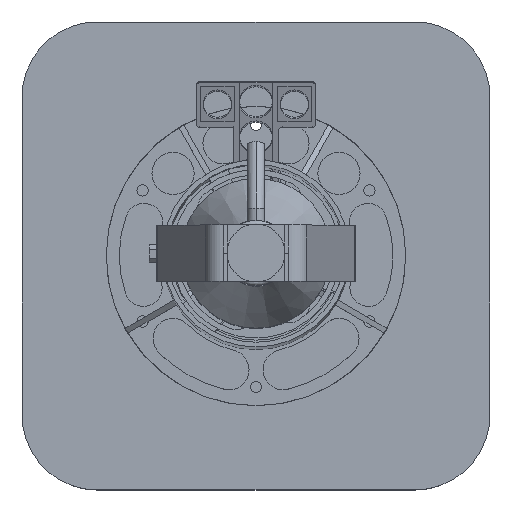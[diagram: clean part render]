
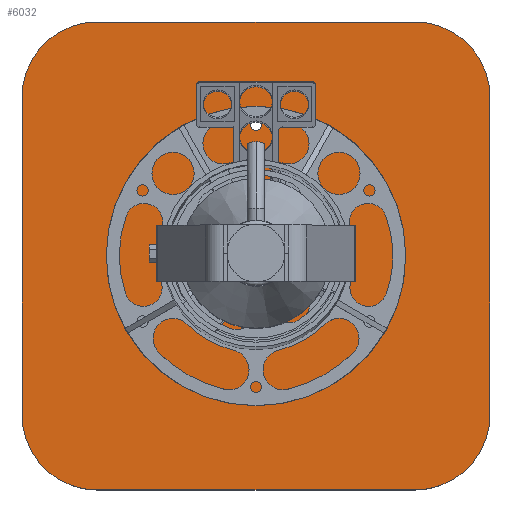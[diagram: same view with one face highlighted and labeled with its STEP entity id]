
A CAD part, top view. The second image highlights one B-rep face of the part: STEP entity #6032.
In plain terms, the highlighted planar face has unit normal (0, 0, 1).
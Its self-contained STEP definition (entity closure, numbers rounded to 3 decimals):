
#63 = VERTEX_POINT ( 'NONE', #2696 ) ;
#376 = CARTESIAN_POINT ( 'NONE',  ( 210., 250., 18. ) ) ;
#462 = EDGE_CURVE ( 'NONE', #10040, #6491, #798, .T. ) ;
#520 = VECTOR ( 'NONE', #4972, 1000. ) ;
#545 = DIRECTION ( 'NONE',  ( 1., 0., 0. ) ) ;
#718 = VERTEX_POINT ( 'NONE', #6168 ) ;
#793 = CARTESIAN_POINT ( 'NONE',  ( 210., 210., 18. ) ) ;
#798 = CIRCLE ( 'NONE', #12187, 3. ) ;
#915 = CARTESIAN_POINT ( 'NONE',  ( 61.378, 90., 18. ) ) ;
#1009 = ORIENTED_EDGE ( 'NONE', *, *, #11031, .T. ) ;
#1010 = CARTESIAN_POINT ( 'NONE',  ( 125., 195., 18. ) ) ;
#1024 = VERTEX_POINT ( 'NONE', #8453 ) ;
#1259 = CARTESIAN_POINT ( 'NONE',  ( 0., 0., 18. ) ) ;
#1385 = CARTESIAN_POINT ( 'NONE',  ( 188.622, 90., 18. ) ) ;
#1388 = VECTOR ( 'NONE', #6588, 1000. ) ;
#1596 = DIRECTION ( 'NONE',  ( -1., 0., 0. ) ) ;
#1658 = EDGE_LOOP ( 'NONE', ( #10066, #7546 ) ) ;
#1671 = ORIENTED_EDGE ( 'NONE', *, *, #6111, .T. ) ;
#1776 = DIRECTION ( 'NONE',  ( 0., 0., 1. ) ) ;
#1795 = DIRECTION ( 'NONE',  ( -1., 0., 0. ) ) ;
#1902 = AXIS2_PLACEMENT_3D ( 'NONE', #4229, #11089, #5221 ) ;
#1998 = DIRECTION ( 'NONE',  ( 1., 0., 0. ) ) ;
#2188 = EDGE_CURVE ( 'NONE', #2623, #1024, #8610, .T. ) ;
#2270 = DIRECTION ( 'NONE',  ( 0., 1., 0. ) ) ;
#2593 = CARTESIAN_POINT ( 'NONE',  ( 0., 210., 18. ) ) ;
#2623 = VERTEX_POINT ( 'NONE', #376 ) ;
#2696 = CARTESIAN_POINT ( 'NONE',  ( 250., 210., 18. ) ) ;
#2847 = CARTESIAN_POINT ( 'NONE',  ( 125., 195., 18. ) ) ;
#2987 = EDGE_CURVE ( 'NONE', #9528, #9118, #10728, .T. ) ;
#3086 = LINE ( 'NONE', #8892, #520 ) ;
#3088 = VECTOR ( 'NONE', #1596, 1000. ) ;
#3194 = DIRECTION ( 'NONE',  ( 0., 0., -1. ) ) ;
#3295 = ORIENTED_EDGE ( 'NONE', *, *, #4192, .F. ) ;
#3812 = CIRCLE ( 'NONE', #7738, 3. ) ;
#3822 = DIRECTION ( 'NONE',  ( 1., 0., 0. ) ) ;
#3941 = LINE ( 'NONE', #5559, #1388 ) ;
#4001 = FACE_OUTER_BOUND ( 'NONE', #4117, .T. ) ;
#4040 = DIRECTION ( 'NONE',  ( 0., 0., 1. ) ) ;
#4117 = EDGE_LOOP ( 'NONE', ( #4913, #5684, #8378, #1009, #10794, #9732, #1671, #8854 ) ) ;
#4177 = CARTESIAN_POINT ( 'NONE',  ( 250., 40., 18. ) ) ;
#4192 = EDGE_CURVE ( 'NONE', #6491, #10040, #8757, .T. ) ;
#4229 = CARTESIAN_POINT ( 'NONE',  ( 64.378, 90., 18. ) ) ;
#4240 = ORIENTED_EDGE ( 'NONE', *, *, #462, .F. ) ;
#4507 = CARTESIAN_POINT ( 'NONE',  ( 122., 195., 18. ) ) ;
#4913 = ORIENTED_EDGE ( 'NONE', *, *, #9805, .T. ) ;
#4972 = DIRECTION ( 'NONE',  ( 0., -1., 0. ) ) ;
#4973 = EDGE_CURVE ( 'NONE', #7828, #5420, #7346, .T. ) ;
#5090 = EDGE_CURVE ( 'NONE', #8100, #8085, #3812, .T. ) ;
#5092 = DIRECTION ( 'NONE',  ( 0., 0., 1. ) ) ;
#5221 = DIRECTION ( 'NONE',  ( 1., 0., 0. ) ) ;
#5320 = CARTESIAN_POINT ( 'NONE',  ( 40., 210., 18. ) ) ;
#5397 = DIRECTION ( 'NONE',  ( 0., 0., 1. ) ) ;
#5420 = VERTEX_POINT ( 'NONE', #7890 ) ;
#5508 = AXIS2_PLACEMENT_3D ( 'NONE', #7573, #1776, #8578 ) ;
#5549 = EDGE_LOOP ( 'NONE', ( #4240, #3295 ) ) ;
#5559 = CARTESIAN_POINT ( 'NONE',  ( 0., 0., 18. ) ) ;
#5684 = ORIENTED_EDGE ( 'NONE', *, *, #2987, .T. ) ;
#5873 = LINE ( 'NONE', #9113, #8812 ) ;
#6032 = ADVANCED_FACE ( 'NONE', ( #12152, #6602, #9236, #4001 ), #11984, .F. ) ;
#6111 = EDGE_CURVE ( 'NONE', #12100, #11437, #3086, .T. ) ;
#6116 = ORIENTED_EDGE ( 'NONE', *, *, #10639, .F. ) ;
#6168 = CARTESIAN_POINT ( 'NONE',  ( 40., 0., 18. ) ) ;
#6304 = DIRECTION ( 'NONE',  ( -1., 0., 0. ) ) ;
#6352 = EDGE_CURVE ( 'NONE', #1024, #12100, #10425, .T. ) ;
#6361 = DIRECTION ( 'NONE',  ( 0., 0., 1. ) ) ;
#6491 = VERTEX_POINT ( 'NONE', #4507 ) ;
#6581 = AXIS2_PLACEMENT_3D ( 'NONE', #10961, #5092, #11958 ) ;
#6588 = DIRECTION ( 'NONE',  ( 1., 0., 0. ) ) ;
#6602 = FACE_BOUND ( 'NONE', #7412, .T. ) ;
#7346 = CIRCLE ( 'NONE', #1902, 3. ) ;
#7412 = EDGE_LOOP ( 'NONE', ( #10464, #6116 ) ) ;
#7444 = CIRCLE ( 'NONE', #6581, 3. ) ;
#7546 = ORIENTED_EDGE ( 'NONE', *, *, #4973, .F. ) ;
#7573 = CARTESIAN_POINT ( 'NONE',  ( 64.378, 90., 18. ) ) ;
#7603 = DIRECTION ( 'NONE',  ( 0., 0., 1. ) ) ;
#7738 = AXIS2_PLACEMENT_3D ( 'NONE', #12255, #6361, #545 ) ;
#7808 = DIRECTION ( 'NONE',  ( 0., 0., 1. ) ) ;
#7828 = VERTEX_POINT ( 'NONE', #915 ) ;
#7890 = CARTESIAN_POINT ( 'NONE',  ( 67.378, 90., 18. ) ) ;
#7944 = CARTESIAN_POINT ( 'NONE',  ( 128., 195., 18. ) ) ;
#7983 = AXIS2_PLACEMENT_3D ( 'NONE', #11260, #5397, #12264 ) ;
#8085 = VERTEX_POINT ( 'NONE', #10128 ) ;
#8100 = VERTEX_POINT ( 'NONE', #1385 ) ;
#8240 = CARTESIAN_POINT ( 'NONE',  ( 0., 40., 18. ) ) ;
#8378 = ORIENTED_EDGE ( 'NONE', *, *, #11880, .T. ) ;
#8453 = CARTESIAN_POINT ( 'NONE',  ( 40., 250., 18. ) ) ;
#8578 = DIRECTION ( 'NONE',  ( 1., 0., 0. ) ) ;
#8610 = LINE ( 'NONE', #10318, #3088 ) ;
#8648 = AXIS2_PLACEMENT_3D ( 'NONE', #9903, #4040, #10883 ) ;
#8757 = CIRCLE ( 'NONE', #10696, 3. ) ;
#8812 = VECTOR ( 'NONE', #2270, 1000. ) ;
#8854 = ORIENTED_EDGE ( 'NONE', *, *, #12022, .T. ) ;
#8892 = CARTESIAN_POINT ( 'NONE',  ( 0., 0., 18. ) ) ;
#9113 = CARTESIAN_POINT ( 'NONE',  ( 250., 0., 18. ) ) ;
#9118 = VERTEX_POINT ( 'NONE', #4177 ) ;
#9236 = FACE_BOUND ( 'NONE', #5549, .T. ) ;
#9528 = VERTEX_POINT ( 'NONE', #10029 ) ;
#9631 = AXIS2_PLACEMENT_3D ( 'NONE', #793, #7603, #1795 ) ;
#9697 = DIRECTION ( 'NONE',  ( 0., 0., 1. ) ) ;
#9732 = ORIENTED_EDGE ( 'NONE', *, *, #6352, .T. ) ;
#9805 = EDGE_CURVE ( 'NONE', #718, #9528, #3941, .T. ) ;
#9903 = CARTESIAN_POINT ( 'NONE',  ( 210., 40., 18. ) ) ;
#10029 = CARTESIAN_POINT ( 'NONE',  ( 210., 0., 18. ) ) ;
#10037 = DIRECTION ( 'NONE',  ( -1., 0., 0. ) ) ;
#10040 = VERTEX_POINT ( 'NONE', #7944 ) ;
#10066 = ORIENTED_EDGE ( 'NONE', *, *, #10416, .F. ) ;
#10128 = CARTESIAN_POINT ( 'NONE',  ( 182.622, 90., 18. ) ) ;
#10318 = CARTESIAN_POINT ( 'NONE',  ( 0., 250., 18. ) ) ;
#10416 = EDGE_CURVE ( 'NONE', #5420, #7828, #11143, .T. ) ;
#10425 = CIRCLE ( 'NONE', #10485, 40. ) ;
#10464 = ORIENTED_EDGE ( 'NONE', *, *, #5090, .F. ) ;
#10485 = AXIS2_PLACEMENT_3D ( 'NONE', #5320, #12198, #6304 ) ;
#10639 = EDGE_CURVE ( 'NONE', #8085, #8100, #7444, .T. ) ;
#10696 = AXIS2_PLACEMENT_3D ( 'NONE', #1010, #7808, #1998 ) ;
#10720 = AXIS2_PLACEMENT_3D ( 'NONE', #1259, #3194, #10037 ) ;
#10728 = CIRCLE ( 'NONE', #8648, 40. ) ;
#10794 = ORIENTED_EDGE ( 'NONE', *, *, #2188, .T. ) ;
#10883 = DIRECTION ( 'NONE',  ( -1., 0., 0. ) ) ;
#10961 = CARTESIAN_POINT ( 'NONE',  ( 185.622, 90., 18. ) ) ;
#11031 = EDGE_CURVE ( 'NONE', #63, #2623, #11276, .T. ) ;
#11089 = DIRECTION ( 'NONE',  ( 0., 0., 1. ) ) ;
#11143 = CIRCLE ( 'NONE', #5508, 3. ) ;
#11260 = CARTESIAN_POINT ( 'NONE',  ( 40., 40., 18. ) ) ;
#11276 = CIRCLE ( 'NONE', #9631, 40. ) ;
#11437 = VERTEX_POINT ( 'NONE', #8240 ) ;
#11873 = CIRCLE ( 'NONE', #7983, 40. ) ;
#11880 = EDGE_CURVE ( 'NONE', #9118, #63, #5873, .T. ) ;
#11958 = DIRECTION ( 'NONE',  ( 1., 0., 0. ) ) ;
#11984 = PLANE ( 'NONE',  #10720 ) ;
#12022 = EDGE_CURVE ( 'NONE', #11437, #718, #11873, .T. ) ;
#12100 = VERTEX_POINT ( 'NONE', #2593 ) ;
#12152 = FACE_BOUND ( 'NONE', #1658, .T. ) ;
#12187 = AXIS2_PLACEMENT_3D ( 'NONE', #2847, #9697, #3822 ) ;
#12198 = DIRECTION ( 'NONE',  ( 0., 0., 1. ) ) ;
#12255 = CARTESIAN_POINT ( 'NONE',  ( 185.622, 90., 18. ) ) ;
#12264 = DIRECTION ( 'NONE',  ( -1., 0., 0. ) ) ;
